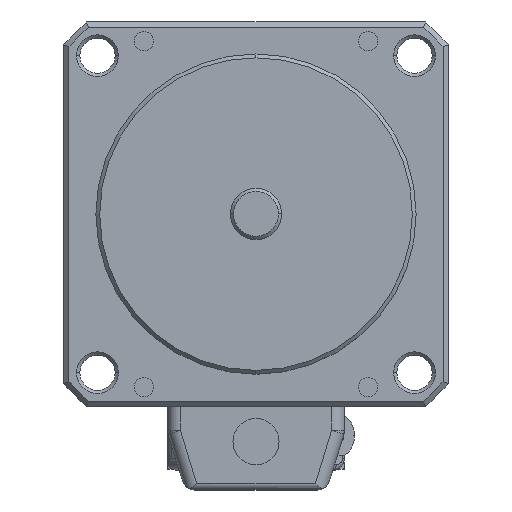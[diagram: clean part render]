
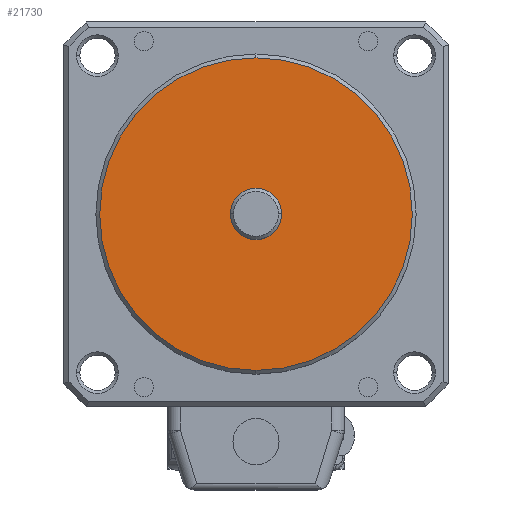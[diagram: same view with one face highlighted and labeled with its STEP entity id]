
A CAD part, top view. The second image highlights one B-rep face of the part: STEP entity #21730.
In plain terms, the highlighted planar face has unit normal (0, 0, 1).
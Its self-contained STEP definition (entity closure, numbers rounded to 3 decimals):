
#21340=CARTESIAN_POINT('',(-24.4,-24.4,-32.7));
#21350=DIRECTION('',(0.,0.,1.));
#21360=DIRECTION('',(1.,0.,0.));
#21370=AXIS2_PLACEMENT_3D('',#21340,#21350,#21360);
#21380=PLANE('',#21370);
#21390=CARTESIAN_POINT('',(0.,0.,
-32.7));
#21400=DIRECTION('',(0.,0.,1.));
#21410=DIRECTION('',(1.,0.,0.));
#21420=AXIS2_PLACEMENT_3D('',#21390,#21400,#21410);
#21430=CIRCLE('',#21420,4.);
#21440=CARTESIAN_POINT('',(4.,0.,-32.7));
#21450=VERTEX_POINT('',#21440);
#21460=CARTESIAN_POINT('',(-4.,0.,-32.7));
#21470=VERTEX_POINT('',#21460);
#21480=EDGE_CURVE('',#21450,#21470,#21430,.T.);
#21490=ORIENTED_EDGE('',*,*,#21480,.F.);
#21500=EDGE_CURVE('',#21470,#21450,#21430,.T.);
#21510=ORIENTED_EDGE('',*,*,#21500,.F.);
#21520=EDGE_LOOP('',(#21510,#21490));
#21530=FACE_BOUND('',#21520,.T.);
#21540=CARTESIAN_POINT('',(0.,0.,
-32.7));
#21550=DIRECTION('',(0.,0.,1.));
#21560=DIRECTION('',(0.,-1.,0.));
#21570=AXIS2_PLACEMENT_3D('',#21540,#21550,#21560);
#21580=CIRCLE('',#21570,24.4);
#21590=CARTESIAN_POINT('',(0.,24.4,-32.7));
#21600=VERTEX_POINT('',#21590);
#21610=CARTESIAN_POINT('',(0.,-24.4,-32.7));
#21620=VERTEX_POINT('',#21610);
#21630=EDGE_CURVE('',#21600,#21620,#21580,.T.);
#21640=ORIENTED_EDGE('',*,*,#21630,.T.);
#21650=CARTESIAN_POINT('',(24.4,0.,-32.7));
#21660=VERTEX_POINT('',#21650);
#21670=EDGE_CURVE('',#21660,#21600,#21580,.T.);
#21680=ORIENTED_EDGE('',*,*,#21670,.T.);
#21690=EDGE_CURVE('',#21620,#21660,#21580,.T.);
#21700=ORIENTED_EDGE('',*,*,#21690,.T.);
#21710=EDGE_LOOP('',(#21700,#21680,#21640));
#21720=FACE_OUTER_BOUND('',#21710,.T.);
#21730=ADVANCED_FACE('',(#21530,#21720),#21380,.T.);
